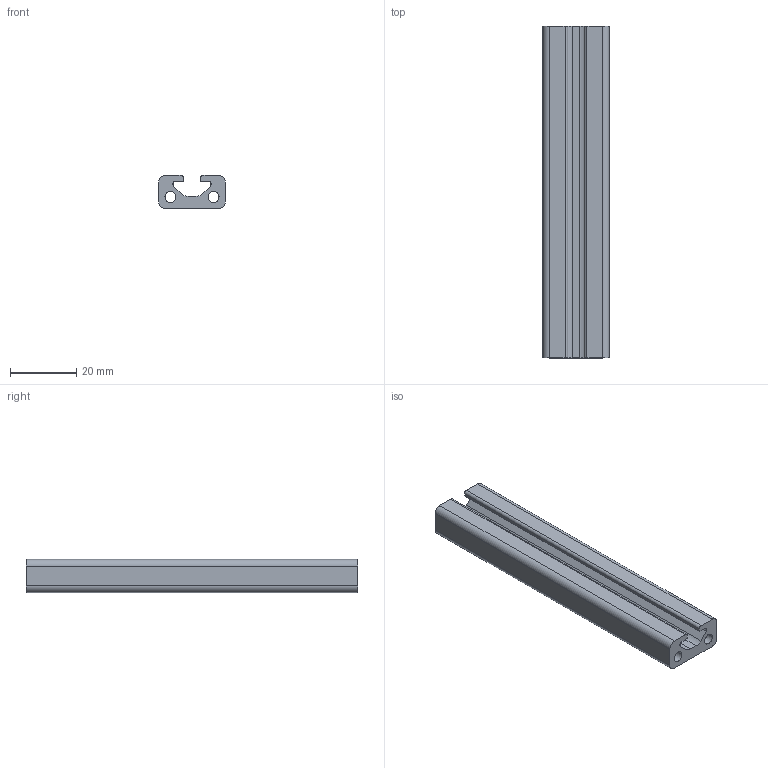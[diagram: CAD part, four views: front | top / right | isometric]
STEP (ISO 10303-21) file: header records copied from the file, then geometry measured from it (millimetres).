
FILE_DESCRIPTION(('STEP AP214'),'1');
FILE_NAME('cctmp_8CED44C5-B508-43D4-8414-E69AB5F7D93F_2019_8_13_13_54_59_8..stp','2019-08-13T11:54:59',('item Industrietechnik GmbH'),('CADClick - www.CADClick.com'),'Spatial InterOp 3D',' ','unknown authorization');
FILE_SCHEMA(('AUTOMOTIVE_DESIGN'));
Length unit declared in the file: millimetre
Products named in the file (1): item_0039102_Profile 5 20x10_L=100
Bounding box: 20 x 100 x 10 mm (x, y, z)
Volume: 12991.2 mm3; surface area: 9965.9 mm2
Topology: 1 solids, 1 shells, 30 faces, 84 edges, 56 vertices
Faces by surface type: cylinder 16, plane 14
Entity records: 1252 total; most frequent: DIRECTION 178, CARTESIAN_POINT 171, ORIENTED_EDGE 168, EDGE_CURVE 84, AXIS2_PLACEMENT_3D 63, VERTEX_POINT 56, LINE 52, VECTOR 52
